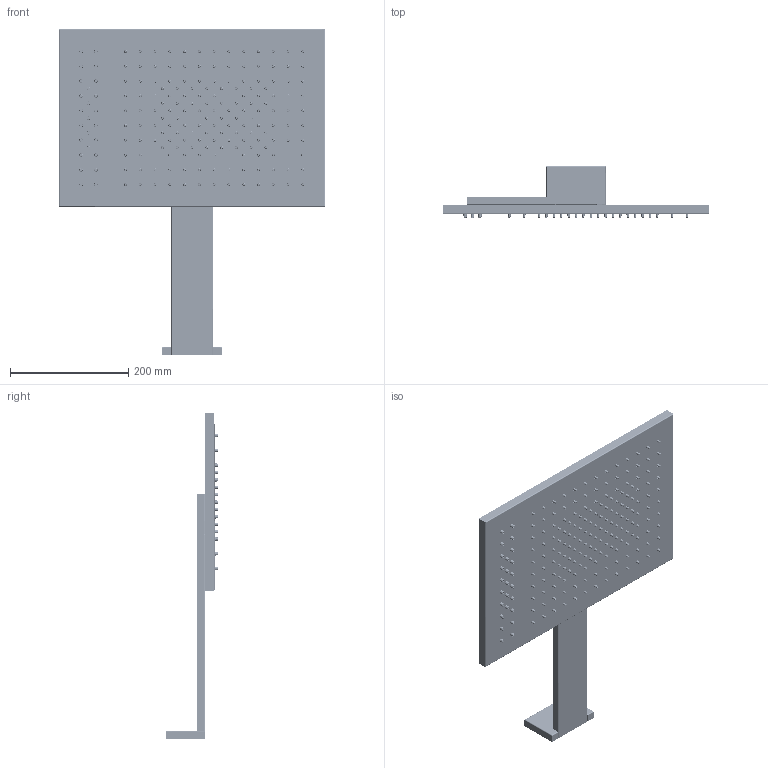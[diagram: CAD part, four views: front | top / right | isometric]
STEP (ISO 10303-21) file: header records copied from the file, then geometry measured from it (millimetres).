
FILE_DESCRIPTION((''),'2;1');
FILE_NAME('K032B_ASM','2022-07-08T14:30:51',('Elia'),(''),'CREO PARAMETRIC BY PTC INC, 2021424','CREO PARAMETRIC BY PTC INC, 2021424','');
FILE_SCHEMA(('AUTOMOTIVE_DESIGN { 1 0 10303 214 1 1 1 1 }'));
Length unit declared in the file: millimetre
Products named in the file (18): 00004996_TUTTO; 00004960_TUTTO; ISO_7046-1_-_M3_X_10_-_Z_-_10N_; 00005673_TUTTO; 00005677_TUTTO_ASM; DADO_FLANGIATO_M3_DADO_FLANGIAT; 00005650_TUTTO; 00005678_TUTTO; 00005655_TUTTO; 00005685_TUTTO; 00005684_TUTTO_ASM; 00005742_TUTTO; 00005737_TUTTO_ASM; PRIGIONIERO_PER_SALDATURA_M3XZ_; 00005683_TUTTO; 00005705_TUTTO_ASM; K032B_TUTTO_ASM; K032B_ASM
Assembly tree (231 placements, depth 4):
  K032B_ASM
    K032B_TUTTO_ASM
      00004996_TUTTO  x25
      00004960_TUTTO  x170
      ISO_7046-1_-_M3_X_10_-_Z_-_10N_  x20
      00005677_TUTTO_ASM
        00005673_TUTTO
      DADO_FLANGIATO_M3_DADO_FLANGIAT  x2
      00005650_TUTTO
      00005678_TUTTO
      00005655_TUTTO
      00005684_TUTTO_ASM
        00005685_TUTTO
      00005737_TUTTO_ASM
        00005742_TUTTO
      00005705_TUTTO_ASM
        PRIGIONIERO_PER_SALDATURA_M3XZ_  x2
        00005683_TUTTO
Bounding box: 450 x 87.36 x 550.04 mm (x, y, z)
Volume: 392677.8 mm3; surface area: 838391.3 mm2
Topology: 226 solids, 226 shells, 7079 faces, 15003 edges, 9138 vertices
Faces by surface type: cylinder 2181, plane 1798, torus 1612, cone 1448, bspline 40
Entity records: 38529 total; most frequent: CARTESIAN_POINT 9006, DIRECTION 6507, ORIENTED_EDGE 4814, AXIS2_PLACEMENT_3D 2692, EDGE_CURVE 2407, VERTEX_POINT 1542, EDGE_LOOP 1397, CIRCLE 1232
